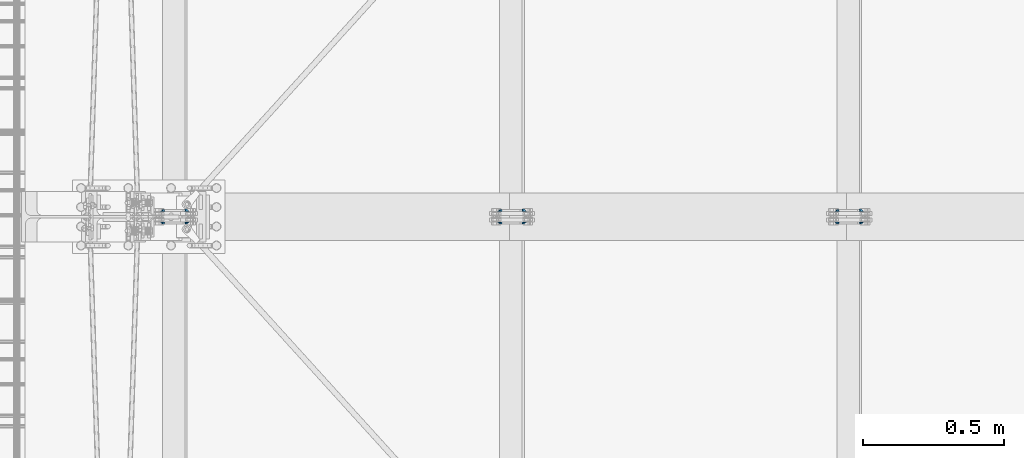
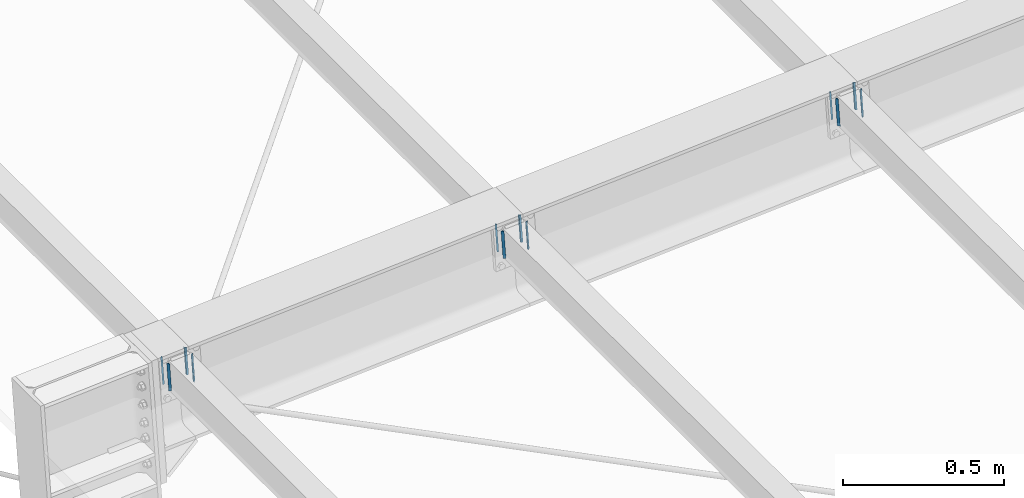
# One storey, part 17 of 72: 24 fasteners.
"""IFC4 building model written with IfcOpenShell, lengths in metres."""

import ifcopenshell
import ifcopenshell.guid

model = None  # the IFC model being written
_history = None  # IfcOwnerHistory: only IFC2X3 demands one
_inside = {}  # id of a spatial element -> (the spatial element, [elements in it])
_under = {}  # id of a project, library or spatial element -> (it, [spatial elements below it])
_declared = {}  # id of a project -> (the project, [libraries it declares])
_typed = {}  # id of a type object -> (the type object, [elements of that type])
_made_of = {}  # id of a material, layer set ... -> (it, [elements and type objects made of it])


def new_model(schema):
    """Start an empty IFC model of exactly this schema.

    Asked for "IFC4X3", IfcOpenShell would pick the latest addendum, in which some entities
    have other attributes; the version numbers below select the first issue.
    IFC2X3 requires an IfcOwnerHistory on every rooted entity: one is made here for all.
    """
    global model, _history
    if schema == "IFC4X3":
        model = ifcopenshell.file(schema_version=(4, 3, 0, 0))
    else:
        model = ifcopenshell.file(schema=schema)
    _inside.clear()
    _under.clear()
    _declared.clear()
    _typed.clear()
    _made_of.clear()
    _history = None
    if model.schema == "IFC2X3":
        org = make("IfcOrganization", Name="unknown")
        user = make(
            "IfcPersonAndOrganization",
            ThePerson=make("IfcPerson", FamilyName="unknown"),
            TheOrganization=org,
        )
        app = make(
            "IfcApplication",
            ApplicationDeveloper=org,
            Version="unknown",
            ApplicationFullName="unknown",
            ApplicationIdentifier="unknown",
        )
        _history = make(
            "IfcOwnerHistory",
            OwningUser=user,
            OwningApplication=app,
            ChangeAction="ADDED",
            CreationDate=0,
        )
    return model


def make(cls, **values):
    """One entity of the class cls with the attributes given. An attribute that is None is left unset."""
    return model.create_entity(
        cls, **{name: value for name, value in values.items() if value is not None}
    )


def rooted(cls, **values):
    """An entity with a GlobalId (a new one), such as an element, a storey or a relation."""
    return make(cls, GlobalId=ifcopenshell.guid.new(), OwnerHistory=_history, **values)


def si_unit(unit_type, name, prefix=None):
    """IfcSIUnit, for example si_unit("LENGTHUNIT", "METRE", prefix="MILLI")."""
    return make("IfcSIUnit", UnitType=unit_type, Prefix=prefix, Name=name)


def assignment(units):
    """IfcUnitAssignment: the units of a project."""
    return None if units is None else make("IfcUnitAssignment", Units=units)


def point(xyz):
    """IfcCartesianPoint."""
    return None if xyz is None else make("IfcCartesianPoint", Coordinates=xyz)


def direction(xyz):
    """IfcDirection."""
    return None if xyz is None else make("IfcDirection", DirectionRatios=xyz)


def frame(location, z_axis=None, x_axis=None):
    """IfcAxis2Placement3D, a coordinate frame: its origin and axes. An axis left out is left unset."""
    return make(
        "IfcAxis2Placement3D",
        Location=point(location),
        Axis=direction(z_axis),
        RefDirection=direction(x_axis),
    )


def origin_with_axes():
    """The frame at (0, 0, 0) with the z axis (0, 0, 1) and the x axis (1, 0, 0) written out."""
    return frame((0.0, 0.0, 0.0), z_axis=(0.0, 0.0, 1.0), x_axis=(1.0, 0.0, 0.0))


def place(relative_to, where):
    """IfcLocalPlacement: puts the frame where relative to a parent placement (None: the world)."""
    return make(
        "IfcLocalPlacement", PlacementRelTo=relative_to, RelativePlacement=where
    )


def context(
    kind, dimensions, precision=None, world=None, true_north=None, identifier=None
):
    """IfcGeometricRepresentationContext, for example the 3D "Model" context."""
    return make(
        "IfcGeometricRepresentationContext",
        ContextIdentifier=identifier,
        ContextType=kind,
        CoordinateSpaceDimension=dimensions,
        Precision=precision,
        WorldCoordinateSystem=world,
        TrueNorth=true_north,
    )


def project(units=None, contexts=None):
    """IfcProject with its units and contexts."""
    return rooted(
        "IfcProject",
        Name="project",
        RepresentationContexts=contexts,
        UnitsInContext=assignment(units),
    )


def spatial(cls, under=None, at=None, **own):
    """A site, building, storey or space (cls), placed at a placement, below another one or the project."""
    s = rooted(cls, ObjectPlacement=at, **own)
    if under is not None:
        _under.setdefault(under.id(), (under, []))[1].append(s)
    return s


def polyline(points):
    """IfcPolyline through the points."""
    return make("IfcPolyline", Points=[point(p) for p in points])


def outline(outer, holes=None, kind="AREA"):
    """IfcArbitraryClosedProfileDef: a profile drawn as a closed curve; with holes, ...WithVoids."""
    if holes is None:
        return make("IfcArbitraryClosedProfileDef", ProfileType=kind, OuterCurve=outer)
    return make(
        "IfcArbitraryProfileDefWithVoids",
        ProfileType=kind,
        OuterCurve=outer,
        InnerCurves=holes,
    )


def extrude(swept, where, along, depth):
    """IfcExtrudedAreaSolid: the profile swept, set in the frame where, extruded along a direction by depth."""
    return make(
        "IfcExtrudedAreaSolid",
        SweptArea=swept,
        Position=where,
        ExtrudedDirection=direction(along),
        Depth=depth,
    )


def shape(context_of_items, identifier, shape_type, items):
    """IfcShapeRepresentation: the items that make up one representation, for example the "Body"."""
    return make(
        "IfcShapeRepresentation",
        ContextOfItems=context_of_items,
        RepresentationIdentifier=identifier,
        RepresentationType=shape_type,
        Items=items,
    )


def made_of(thing, what):
    """Note that an element or type object is made of a material, layer set ...; save() writes the relation."""
    if what is not None:
        _made_of.setdefault(what.id(), (what, []))[1].append(thing)
    return thing


def type_object(cls, material=None, **own):
    """A type object (cls), such as IfcWallType, which elements share."""
    return made_of(rooted(cls, **own), material)


def element(
    cls,
    number,
    at=None,
    inside=None,
    cuts=None,
    type_object=None,
    material=None,
    context=None,
    identifier="Body",
    shape_type=None,
    held_by="IfcProductDefinitionShape",
    body=None,
    shapes=None,
    **own,
):
    """One element of the class cls, such as IfcWall. Its Tag is "e" and its number.

    at: its placement. inside: the storey or other place that contains it. cuts: it is an
    opening in that element (IfcRelVoidsElement). A single representation is given by context,
    identifier, shape_type and body (its items); several are given by shapes. held_by: the class
    of the entity that holds the representations. save() writes the other relations.
    """
    e = rooted(cls, Tag="e%d" % number, ObjectPlacement=at, **own)
    if body is not None:
        shapes = [shape(context, identifier, shape_type, body)]
    if shapes is not None:
        e.Representation = make(held_by, Representations=shapes)
    if inside is not None:
        _inside.setdefault(inside.id(), (inside, []))[1].append(e)
    if cuts is not None:
        rooted(
            "IfcRelVoidsElement", RelatingBuildingElement=cuts, RelatedOpeningElement=e
        )
    if type_object is not None:
        _typed.setdefault(type_object.id(), (type_object, []))[1].append(e)
    return made_of(e, material)


def aggregate(whole, parts):
    """IfcRelAggregates: a whole, such as a stair, and the parts it consists of."""
    return rooted("IfcRelAggregates", RelatingObject=whole, RelatedObjects=parts)


def save(model, path):
    """Write the relations noted so far, then the file.

    IfcRelAggregates (storeys below a building ...), IfcRelContainedInSpatialStructure (elements
    in a storey), IfcRelDefinesByType, IfcRelAssociatesMaterial and IfcRelDeclares: one each for
    every whole, place, type object, material and project.
    """
    for whole, parts in _under.values():
        aggregate(whole, parts)
    for where, things in _inside.values():
        rooted(
            "IfcRelContainedInSpatialStructure",
            RelatedElements=things,
            RelatingStructure=where,
        )
    for kind, things in _typed.values():
        rooted("IfcRelDefinesByType", RelatedObjects=things, RelatingType=kind)
    for what, things in _made_of.values():
        rooted("IfcRelAssociatesMaterial", RelatedObjects=things, RelatingMaterial=what)
    for by, libraries in _declared.values():
        rooted("IfcRelDeclares", RelatingContext=by, RelatedDefinitions=libraries)
    model.write(path)


model = new_model("IFC4")

# Units and contexts
model_context = context("Model", 3, precision=1e-05, world=origin_with_axes())
ifc_project = project(units=[si_unit("LENGTHUNIT", "METRE"), si_unit("AREAUNIT", "SQUARE_METRE"), si_unit("VOLUMEUNIT", "CUBIC_METRE"), si_unit("MASSUNIT", "GRAM", prefix="KILO"), si_unit("TIMEUNIT", "SECOND"), si_unit("PLANEANGLEUNIT", "RADIAN"), si_unit("SOLIDANGLEUNIT", "STERADIAN"), si_unit("THERMODYNAMICTEMPERATUREUNIT", "DEGREE_CELSIUS")], contexts=[model_context])

# Site, building, storey
placement_1 = place(None, origin_with_axes())
site = spatial("IfcSite", under=ifc_project, at=placement_1, Name="Italia", CompositionType="ELEMENT")
building = spatial("IfcBuilding", under=site, at=placement_1, Name="Pensilina", CompositionType="ELEMENT")
storey = spatial("IfcBuildingStorey", under=building, at=placement_1, Name="Storey 0", CompositionType="ELEMENT", Elevation=0.0)

# Fasteners
fastener_type_1 = type_object("IfcFastenerType", Name="Collegamento 0203_0202", PredefinedType="WELD")
placement_2 = place(placement_1, origin_with_axes())
fastener_1_placement = place(placement_2, origin_with_axes())
element("IfcFastener", 1, at=fastener_1_placement, inside=storey, type_object=fastener_type_1, Name="Collegamento 0203_0202", context=model_context, shape_type="SweptSolid", body=[
    extrude(outline(polyline([(0.0, 0.0, 0.0), (-0.00717354, 0.00695825, 0.0), (0.0, 0.00695825, 0.0), (0.0, 0.0, 0.0)])), frame((0.970676, 10.5411, 3.74635), z_axis=(0.067317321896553, 0.0, -0.997731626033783), x_axis=(0.0, 1.0, 0.0)), (0.0, 0.0, 1.0), 0.1061),
])
fastener_type_2 = type_object("IfcFastenerType", Name="Collegamento 0203_0202", PredefinedType="WELD")
fastener_2_placement = place(placement_2, origin_with_axes())
element("IfcFastener", 2, at=fastener_2_placement, inside=storey, type_object=fastener_type_2, Name="Collegamento 0203_0202", context=model_context, shape_type="SweptSolid", body=[
    extrude(outline(polyline([(0.0, 0.0, 0.0), (0.00717354, -0.00695825, 0.0), (0.0, -0.00695825, 0.0), (0.0, 0.0, 0.0)])), frame((1.07142, 10.5411, 3.64681), z_axis=(-0.067317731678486, 0.0, 0.997731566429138), x_axis=(0.0, -1.0, 0.0)), (0.0, 0.0, 1.0), 0.1061),
])
fastener_type_3 = type_object("IfcFastenerType", Name="Collegamento 0203_0202", PredefinedType="WELD")
fastener_3_placement = place(placement_2, origin_with_axes())
element("IfcFastener", 3, at=fastener_3_placement, inside=storey, type_object=fastener_type_3, Name="Collegamento 0203_0202", context=model_context, shape_type="SweptSolid", body=[
    extrude(outline(polyline([(0.0, 0.0, 0.0), (-0.00717354, 0.00695825, 0.0), (0.0, 0.00695825, 0.0), (0.0, 0.0, 0.0)])), frame((0.970676, 10.5411, 3.74635), z_axis=(0.067317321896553, 0.0, -0.997731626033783), x_axis=(0.0, 1.0, 0.0)), (0.0, 0.0, 1.0), 0.1061),
])
fastener_type_4 = type_object("IfcFastenerType", Name="Collegamento 0203_0202", PredefinedType="WELD")
fastener_4_placement = place(placement_2, origin_with_axes())
element("IfcFastener", 4, at=fastener_4_placement, inside=storey, type_object=fastener_type_4, Name="Collegamento 0203_0202", context=model_context, shape_type="SweptSolid", body=[
    extrude(outline(polyline([(0.0, 0.0, 0.0), (0.00717354, -0.00695825, 0.0), (0.0, -0.00695825, 0.0), (0.0, 0.0, 0.0)])), frame((1.07142, 10.5411, 3.64681), z_axis=(-0.067317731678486, 0.0, 0.997731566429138), x_axis=(0.0, -1.0, 0.0)), (0.0, 0.0, 1.0), 0.1061),
])
fastener_type_5 = type_object("IfcFastenerType", Name="Collegamento 0203_0204", PredefinedType="WELD")
fastener_5_placement = place(placement_2, origin_with_axes())
element("IfcFastener", 5, at=fastener_5_placement, inside=storey, type_object=fastener_type_5, Name="Collegamento 0203_0204", context=model_context, shape_type="SweptSolid", body=[
    extrude(outline(polyline([(0.0, 0.0, 0.0), (-0.00717354, 0.00695825, 0.0), (0.0, 0.00695825, 0.0), (0.0, 0.0, 0.0)])), frame((0.977819, 10.5789, 3.64049), z_axis=(-0.067317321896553, 0.0, 0.997731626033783), x_axis=(0.0, -1.0, 0.0)), (0.0, 0.0, 1.0), 0.1061),
])
fastener_type_6 = type_object("IfcFastenerType", Name="Collegamento 0203_0204", PredefinedType="WELD")
fastener_6_placement = place(placement_2, origin_with_axes())
element("IfcFastener", 6, at=fastener_6_placement, inside=storey, type_object=fastener_type_6, Name="Collegamento 0203_0204", context=model_context, shape_type="SweptSolid", body=[
    extrude(outline(polyline([(0.0, 0.0, 0.0), (0.00717354, -0.00695825, 0.0), (0.0, -0.00695825, 0.0), (0.0, 0.0, 0.0)])), frame((1.06428, 10.5789, 3.75267), z_axis=(0.067317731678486, 0.0, -0.997731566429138), x_axis=(0.0, 1.0, 0.0)), (0.0, 0.0, 1.0), 0.1061),
])
fastener_type_7 = type_object("IfcFastenerType", Name="Collegamento 0203_0204", PredefinedType="WELD")
fastener_7_placement = place(placement_2, origin_with_axes())
element("IfcFastener", 7, at=fastener_7_placement, inside=storey, type_object=fastener_type_7, Name="Collegamento 0203_0204", context=model_context, shape_type="SweptSolid", body=[
    extrude(outline(polyline([(0.0, 0.0, 0.0), (-0.00717354, 0.00695825, 0.0), (0.0, 0.00695825, 0.0), (0.0, 0.0, 0.0)])), frame((0.977819, 10.5789, 3.64049), z_axis=(-0.067317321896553, 0.0, 0.997731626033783), x_axis=(0.0, -1.0, 0.0)), (0.0, 0.0, 1.0), 0.1061),
])
fastener_type_8 = type_object("IfcFastenerType", Name="Collegamento 0203_0204", PredefinedType="WELD")
fastener_8_placement = place(placement_2, origin_with_axes())
element("IfcFastener", 8, at=fastener_8_placement, inside=storey, type_object=fastener_type_8, Name="Collegamento 0203_0204", context=model_context, shape_type="SweptSolid", body=[
    extrude(outline(polyline([(0.0, 0.0, 0.0), (0.00717354, -0.00695825, 0.0), (0.0, -0.00695825, 0.0), (0.0, 0.0, 0.0)])), frame((1.06428, 10.5789, 3.75267), z_axis=(0.067317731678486, 0.0, -0.997731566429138), x_axis=(0.0, 1.0, 0.0)), (0.0, 0.0, 1.0), 0.1061),
])
fastener_type_9 = type_object("IfcFastenerType", Name="Collegamento 0303_0302", PredefinedType="WELD")
fastener_9_placement = place(placement_2, origin_with_axes())
element("IfcFastener", 9, at=fastener_9_placement, inside=storey, type_object=fastener_type_9, Name="Collegamento 0303_0302", context=model_context, shape_type="SweptSolid", body=[
    extrude(outline(polyline([(0.0, 0.0, 0.0), (-0.00717354, 0.00695848, 0.0), (0.0, 0.00695848, 0.0), (0.0, 0.0, 0.0)])), frame((2.1679, 10.5411, 3.8286), z_axis=(0.067318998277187, 0.0, -0.997731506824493), x_axis=(0.0, 1.0, 0.0)), (0.0, 0.0, 1.0), 0.1061),
])
fastener_type_10 = type_object("IfcFastenerType", Name="Collegamento 0303_0302", PredefinedType="WELD")
fastener_10_placement = place(placement_2, origin_with_axes())
element("IfcFastener", 10, at=fastener_10_placement, inside=storey, type_object=fastener_type_10, Name="Collegamento 0303_0302", context=model_context, shape_type="SweptSolid", body=[
    extrude(outline(polyline([(0.0, 0.0, 0.0), (0.00717354, -0.00695825, 0.0), (0.0, -0.00695825, 0.0), (0.0, 0.0, 0.0)])), frame((2.26864, 10.5411, 3.72906), z_axis=(-0.067318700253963, 0.0, 0.997731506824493), x_axis=(0.0, -1.0, 0.0)), (0.0, 0.0, 1.0), 0.1061),
])
fastener_type_11 = type_object("IfcFastenerType", Name="Collegamento 0303_0302", PredefinedType="WELD")
fastener_11_placement = place(placement_2, origin_with_axes())
element("IfcFastener", 11, at=fastener_11_placement, inside=storey, type_object=fastener_type_11, Name="Collegamento 0303_0302", context=model_context, shape_type="SweptSolid", body=[
    extrude(outline(polyline([(0.0, 0.0, 0.0), (-0.00717354, 0.00695848, 0.0), (0.0, 0.00695848, 0.0), (0.0, 0.0, 0.0)])), frame((2.1679, 10.5411, 3.8286), z_axis=(0.067318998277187, 0.0, -0.997731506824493), x_axis=(0.0, 1.0, 0.0)), (0.0, 0.0, 1.0), 0.1061),
])
fastener_type_12 = type_object("IfcFastenerType", Name="Collegamento 0303_0302", PredefinedType="WELD")
fastener_12_placement = place(placement_2, origin_with_axes())
element("IfcFastener", 12, at=fastener_12_placement, inside=storey, type_object=fastener_type_12, Name="Collegamento 0303_0302", context=model_context, shape_type="SweptSolid", body=[
    extrude(outline(polyline([(0.0, 0.0, 0.0), (0.00717354, -0.00695825, 0.0), (0.0, -0.00695825, 0.0), (0.0, 0.0, 0.0)])), frame((2.26864, 10.5411, 3.72906), z_axis=(-0.067318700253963, 0.0, 0.997731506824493), x_axis=(0.0, -1.0, 0.0)), (0.0, 0.0, 1.0), 0.1061),
])
fastener_type_13 = type_object("IfcFastenerType", Name="Collegamento 0303_0304", PredefinedType="WELD")
fastener_13_placement = place(placement_2, origin_with_axes())
element("IfcFastener", 13, at=fastener_13_placement, inside=storey, type_object=fastener_type_13, Name="Collegamento 0303_0304", context=model_context, shape_type="SweptSolid", body=[
    extrude(outline(polyline([(0.0, 0.0, 0.0), (-0.00717354, 0.00695848, 0.0), (0.0, 0.00695848, 0.0), (0.0, 0.0, 0.0)])), frame((2.17504, 10.5789, 3.72274), z_axis=(-0.067318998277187, 0.0, 0.997731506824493), x_axis=(0.0, -1.0, 0.0)), (0.0, 0.0, 1.0), 0.1061),
])
fastener_type_14 = type_object("IfcFastenerType", Name="Collegamento 0303_0304", PredefinedType="WELD")
fastener_14_placement = place(placement_2, origin_with_axes())
element("IfcFastener", 14, at=fastener_14_placement, inside=storey, type_object=fastener_type_14, Name="Collegamento 0303_0304", context=model_context, shape_type="SweptSolid", body=[
    extrude(outline(polyline([(0.0, 0.0, 0.0), (0.00717354, -0.00695825, 0.0), (0.0, -0.00695825, 0.0), (0.0, 0.0, 0.0)])), frame((2.2615, 10.5789, 3.83492), z_axis=(0.067318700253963, 0.0, -0.997731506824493), x_axis=(0.0, 1.0, 0.0)), (0.0, 0.0, 1.0), 0.1061),
])
fastener_type_15 = type_object("IfcFastenerType", Name="Collegamento 0303_0304", PredefinedType="WELD")
fastener_15_placement = place(placement_2, origin_with_axes())
element("IfcFastener", 15, at=fastener_15_placement, inside=storey, type_object=fastener_type_15, Name="Collegamento 0303_0304", context=model_context, shape_type="SweptSolid", body=[
    extrude(outline(polyline([(0.0, 0.0, 0.0), (-0.00717354, 0.00695848, 0.0), (0.0, 0.00695848, 0.0), (0.0, 0.0, 0.0)])), frame((2.17504, 10.5789, 3.72274), z_axis=(-0.067318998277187, 0.0, 0.997731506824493), x_axis=(0.0, -1.0, 0.0)), (0.0, 0.0, 1.0), 0.1061),
])
fastener_type_16 = type_object("IfcFastenerType", Name="Collegamento 0303_0304", PredefinedType="WELD")
fastener_16_placement = place(placement_2, origin_with_axes())
element("IfcFastener", 16, at=fastener_16_placement, inside=storey, type_object=fastener_type_16, Name="Collegamento 0303_0304", context=model_context, shape_type="SweptSolid", body=[
    extrude(outline(polyline([(0.0, 0.0, 0.0), (0.00717354, -0.00695825, 0.0), (0.0, -0.00695825, 0.0), (0.0, 0.0, 0.0)])), frame((2.2615, 10.5789, 3.83492), z_axis=(0.067318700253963, 0.0, -0.997731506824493), x_axis=(0.0, 1.0, 0.0)), (0.0, 0.0, 1.0), 0.1061),
])
fastener_type_17 = type_object("IfcFastenerType", Name="Collegamento 0403_0402", PredefinedType="WELD")
fastener_17_placement = place(placement_2, origin_with_axes())
element("IfcFastener", 17, at=fastener_17_placement, inside=storey, type_object=fastener_type_17, Name="Collegamento 0403_0402", context=model_context, shape_type="SweptSolid", body=[
    extrude(outline(polyline([(0.0, 0.0, 0.0), (-0.00717354, 0.00695825, 0.0), (0.0, 0.00695825, 0.0), (0.0, 0.0, 0.0)])), frame((3.36503, 10.5411, 3.91085), z_axis=(0.067318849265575, 0.0, -0.997731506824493), x_axis=(0.0, 1.0, 0.0)), (0.0, 0.0, 1.0), 0.1061),
])
fastener_type_18 = type_object("IfcFastenerType", Name="Collegamento 0403_0402", PredefinedType="WELD")
fastener_18_placement = place(placement_2, origin_with_axes())
element("IfcFastener", 18, at=fastener_18_placement, inside=storey, type_object=fastener_type_18, Name="Collegamento 0403_0402", context=model_context, shape_type="SweptSolid", body=[
    extrude(outline(polyline([(0.0, 0.0, 0.0), (0.00717354, -0.00695825, 0.0), (0.0, -0.00695825, 0.0), (0.0, 0.0, 0.0)])), frame((3.46577, 10.5411, 3.8113), z_axis=(-0.067318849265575, 0.0, 0.997731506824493), x_axis=(0.0, -1.0, 0.0)), (0.0, 0.0, 1.0), 0.1061),
])
fastener_type_19 = type_object("IfcFastenerType", Name="Collegamento 0403_0402", PredefinedType="WELD")
fastener_19_placement = place(placement_2, origin_with_axes())
element("IfcFastener", 19, at=fastener_19_placement, inside=storey, type_object=fastener_type_19, Name="Collegamento 0403_0402", context=model_context, shape_type="SweptSolid", body=[
    extrude(outline(polyline([(0.0, 0.0, 0.0), (-0.00717354, 0.00695825, 0.0), (0.0, 0.00695825, 0.0), (0.0, 0.0, 0.0)])), frame((3.36503, 10.5411, 3.91085), z_axis=(0.067318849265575, 0.0, -0.997731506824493), x_axis=(0.0, 1.0, 0.0)), (0.0, 0.0, 1.0), 0.1061),
])
fastener_type_20 = type_object("IfcFastenerType", Name="Collegamento 0403_0402", PredefinedType="WELD")
fastener_20_placement = place(placement_2, origin_with_axes())
element("IfcFastener", 20, at=fastener_20_placement, inside=storey, type_object=fastener_type_20, Name="Collegamento 0403_0402", context=model_context, shape_type="SweptSolid", body=[
    extrude(outline(polyline([(0.0, 0.0, 0.0), (0.00717354, -0.00695825, 0.0), (0.0, -0.00695825, 0.0), (0.0, 0.0, 0.0)])), frame((3.46577, 10.5411, 3.8113), z_axis=(-0.067318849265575, 0.0, 0.997731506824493), x_axis=(0.0, -1.0, 0.0)), (0.0, 0.0, 1.0), 0.1061),
])
fastener_type_21 = type_object("IfcFastenerType", Name="Collegamento 0403_0404", PredefinedType="WELD")
fastener_21_placement = place(placement_2, origin_with_axes())
element("IfcFastener", 21, at=fastener_21_placement, inside=storey, type_object=fastener_type_21, Name="Collegamento 0403_0404", context=model_context, shape_type="SweptSolid", body=[
    extrude(outline(polyline([(0.0, 0.0, 0.0), (-0.00717354, 0.00695825, 0.0), (0.0, 0.00695825, 0.0), (0.0, 0.0, 0.0)])), frame((3.37217, 10.5789, 3.80499), z_axis=(-0.067318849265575, 0.0, 0.997731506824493), x_axis=(0.0, -1.0, 0.0)), (0.0, 0.0, 1.0), 0.1061),
])
fastener_type_22 = type_object("IfcFastenerType", Name="Collegamento 0403_0404", PredefinedType="WELD")
fastener_22_placement = place(placement_2, origin_with_axes())
element("IfcFastener", 22, at=fastener_22_placement, inside=storey, type_object=fastener_type_22, Name="Collegamento 0403_0404", context=model_context, shape_type="SweptSolid", body=[
    extrude(outline(polyline([(0.0, 0.0, 0.0), (0.00717354, -0.00695848, 0.0), (0.0, -0.00695848, 0.0), (0.0, 0.0, 0.0)])), frame((3.45863, 10.5789, 3.91716), z_axis=(0.067318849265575, 0.0, -0.997731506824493), x_axis=(0.0, 1.0, 0.0)), (0.0, 0.0, 1.0), 0.1061),
])
fastener_type_23 = type_object("IfcFastenerType", Name="Collegamento 0403_0404", PredefinedType="WELD")
fastener_23_placement = place(placement_2, origin_with_axes())
element("IfcFastener", 23, at=fastener_23_placement, inside=storey, type_object=fastener_type_23, Name="Collegamento 0403_0404", context=model_context, shape_type="SweptSolid", body=[
    extrude(outline(polyline([(0.0, 0.0, 0.0), (-0.00717354, 0.00695825, 0.0), (0.0, 0.00695825, 0.0), (0.0, 0.0, 0.0)])), frame((3.37217, 10.5789, 3.80499), z_axis=(-0.067318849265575, 0.0, 0.997731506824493), x_axis=(0.0, -1.0, 0.0)), (0.0, 0.0, 1.0), 0.1061),
])
fastener_type_24 = type_object("IfcFastenerType", Name="Collegamento 0403_0404", PredefinedType="WELD")
fastener_24_placement = place(placement_2, origin_with_axes())
element("IfcFastener", 24, at=fastener_24_placement, inside=storey, type_object=fastener_type_24, Name="Collegamento 0403_0404", context=model_context, shape_type="SweptSolid", body=[
    extrude(outline(polyline([(0.0, 0.0, 0.0), (0.00717354, -0.00695848, 0.0), (0.0, -0.00695848, 0.0), (0.0, 0.0, 0.0)])), frame((3.45863, 10.5789, 3.91716), z_axis=(0.067318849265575, 0.0, -0.997731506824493), x_axis=(0.0, 1.0, 0.0)), (0.0, 0.0, 1.0), 0.1061),
])

save(model, "model.ifc")
